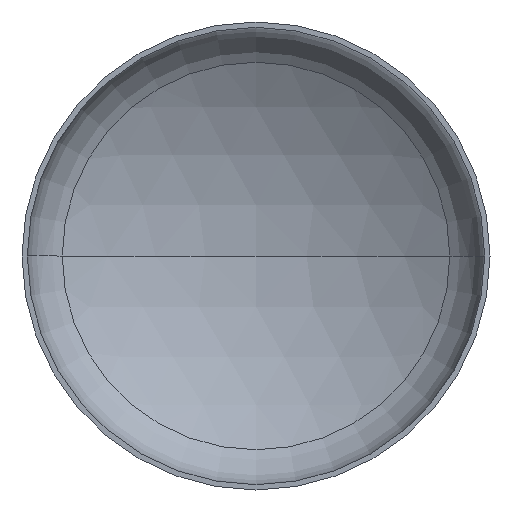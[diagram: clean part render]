
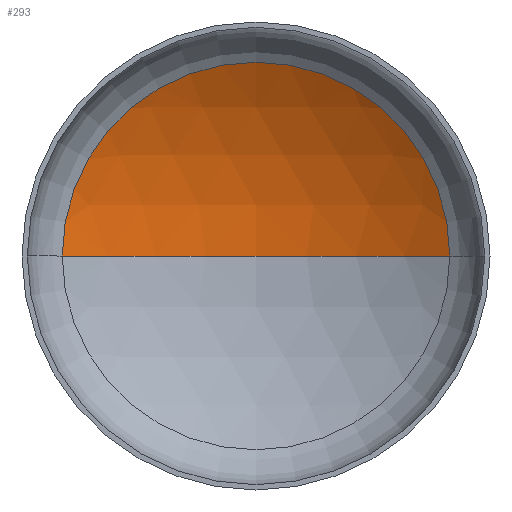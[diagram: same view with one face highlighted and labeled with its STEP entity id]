
A CAD part, front view. The second image highlights one B-rep face of the part: STEP entity #293.
In plain terms, the highlighted spherical face has radius 2720 mm.
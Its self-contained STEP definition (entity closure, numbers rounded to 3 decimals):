
#10 = VERTEX_POINT ( 'NONE', #265 ) ;
#18 = AXIS2_PLACEMENT_3D ( 'NONE', #129, #113, #173 ) ;
#19 = AXIS2_PLACEMENT_3D ( 'NONE', #231, #410, #169 ) ;
#20 = AXIS2_PLACEMENT_3D ( 'NONE', #142, #342, #346 ) ;
#33 = AXIS2_PLACEMENT_3D ( 'NONE', #52, #134, #49 ) ;
#49 = DIRECTION ( 'NONE',  ( -1., 0., 0. ) ) ;
#52 = CARTESIAN_POINT ( 'NONE',  ( 0., -1758.172, 0. ) ) ;
#106 = VERTEX_POINT ( 'NONE', #158 ) ;
#113 = DIRECTION ( 'NONE',  ( 0., 0., 1. ) ) ;
#129 = CARTESIAN_POINT ( 'NONE',  ( 0., -1758.172, 0. ) ) ;
#134 = DIRECTION ( 'NONE',  ( 0., 0., -1. ) ) ;
#142 = CARTESIAN_POINT ( 'NONE',  ( 0., 569.221, 0. ) ) ;
#158 = CARTESIAN_POINT ( 'NONE',  ( -1407.708, 569.221, 0. ) ) ;
#169 = DIRECTION ( 'NONE',  ( -1., 0., 0. ) ) ;
#173 = DIRECTION ( 'NONE',  ( 1., 0., 0. ) ) ;
#196 = CIRCLE ( 'NONE', #19, 2720. ) ;
#197 = ORIENTED_EDGE ( 'NONE', *, *, #344, .T. ) ;
#222 = FACE_OUTER_BOUND ( 'NONE', #268, .T. ) ;
#231 = CARTESIAN_POINT ( 'NONE',  ( 0., -1758.172, 0. ) ) ;
#235 = CARTESIAN_POINT ( 'NONE',  ( 0., 961.828, 0. ) ) ;
#253 = CIRCLE ( 'NONE', #18, 2720. ) ;
#265 = CARTESIAN_POINT ( 'NONE',  ( 1407.708, 569.221, 0. ) ) ;
#268 = EDGE_LOOP ( 'NONE', ( #351, #197, #359 ) ) ;
#293 = ADVANCED_FACE ( 'NONE', ( #222 ), #350, .F. ) ;
#342 = DIRECTION ( 'NONE',  ( 0., -1., 0. ) ) ;
#343 = EDGE_CURVE ( 'NONE', #10, #106, #403, .T. ) ;
#344 = EDGE_CURVE ( 'NONE', #404, #10, #196, .T. ) ;
#346 = DIRECTION ( 'NONE',  ( 1., 0., 0. ) ) ;
#350 = SPHERICAL_SURFACE ( 'NONE', #33, 2720. ) ;
#351 = ORIENTED_EDGE ( 'NONE', *, *, #358, .F. ) ;
#358 = EDGE_CURVE ( 'NONE', #404, #106, #253, .T. ) ;
#359 = ORIENTED_EDGE ( 'NONE', *, *, #343, .T. ) ;
#403 = CIRCLE ( 'NONE', #20, 1407.708 ) ;
#404 = VERTEX_POINT ( 'NONE', #235 ) ;
#410 = DIRECTION ( 'NONE',  ( 0., 0., -1. ) ) ;
